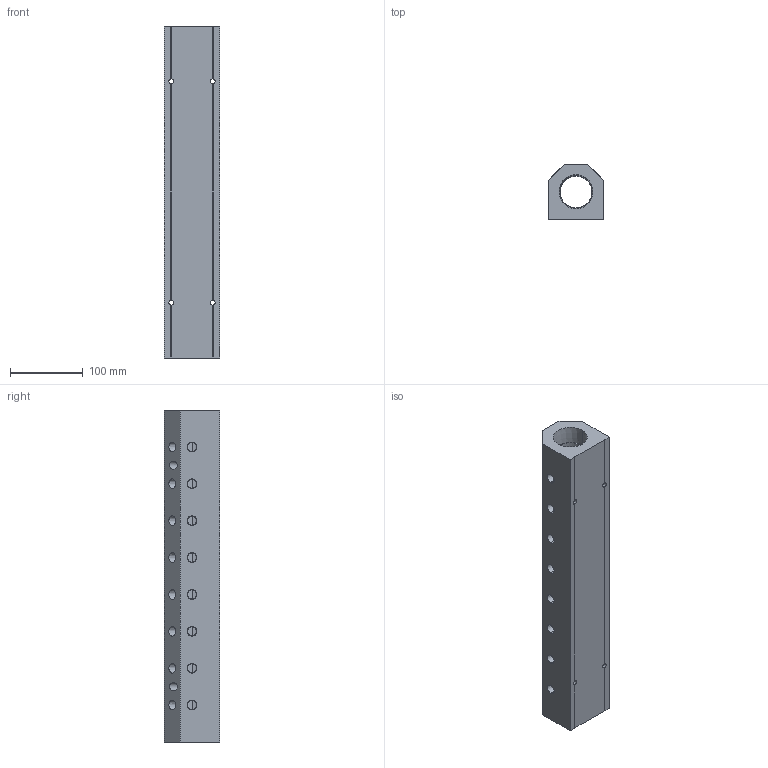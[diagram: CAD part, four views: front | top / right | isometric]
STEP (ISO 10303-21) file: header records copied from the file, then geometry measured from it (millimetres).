
FILE_DESCRIPTION (( 'STEP AP214' ), '1' );
FILE_NAME ('ALM8AB-N4N24-457B.step', '2022-02-07T07:46:26', ( '' ), ( '' ), 'SwSTEP 2.0', 'SolidWorks 2020', '' );
FILE_SCHEMA (( 'AUTOMOTIVE_DESIGN' ));
Length unit declared in the file: millimetre
Products named in the file (1): ALM8AB-N4N24-457B
Bounding box: 76.2 x 76.2 x 457 mm (x, y, z)
Volume: 1670190.9 mm3; surface area: 210376.3 mm2
Topology: 1 solids, 1 shells, 341 faces, 909 edges, 598 vertices
Faces by surface type: plane 232, bspline 55, cone 36, cylinder 18
Entity records: 18482 total; most frequent: CARTESIAN_POINT 7112, ORIENTED_EDGE 1818, DIRECTION 1393, EDGE_CURVE 909, LINE 683, VECTOR 683, VERTEX_POINT 598, EDGE_LOOP 411
